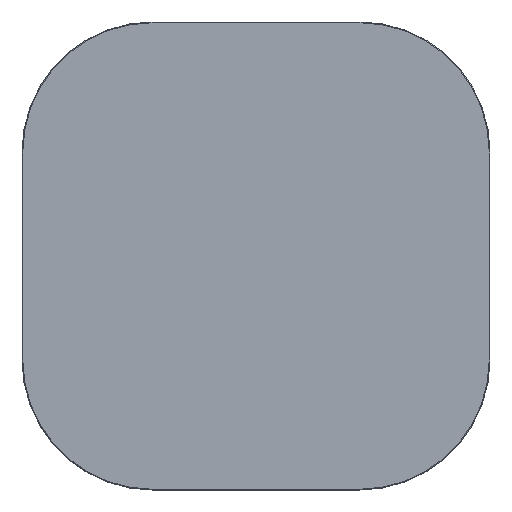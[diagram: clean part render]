
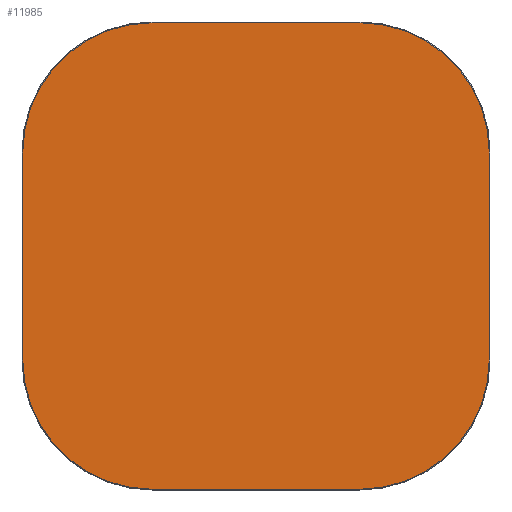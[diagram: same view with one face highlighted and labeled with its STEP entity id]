
A CAD part, top view. The second image highlights one B-rep face of the part: STEP entity #11985.
In plain terms, the highlighted planar face has unit normal (0, 0, 1).
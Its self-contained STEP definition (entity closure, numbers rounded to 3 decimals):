
#11910=CARTESIAN_POINT('',(0.,0.,20.));
#11911=DIRECTION('',(1.,0.,0.));
#11912=DIRECTION('',(0.,0.,1.));
#11913=AXIS2_PLACEMENT_3D('',#11910,#11912,#11911);
#11914=PLANE('',#11913);
#11915=CARTESIAN_POINT('',(-200.,-448.5,20.));
#11916=VERTEX_POINT('',#11915);
#11917=CARTESIAN_POINT('',(200.,-448.5,20.));
#11918=VERTEX_POINT('',#11917);
#11919=CARTESIAN_POINT('',(-200.,-448.5,20.));
#11920=DIRECTION('',(1.,0.,0.));
#11921=VECTOR('',#11920,400.);
#11922=LINE('',#11919,#11921);
#11923=EDGE_CURVE('',#11916,#11918,#11922,.T.);
#11924=ORIENTED_EDGE('E105',*,*,#11923,.T.);
#11925=CARTESIAN_POINT('',(448.5,-200.,20.));
#11926=VERTEX_POINT('',#11925);
#11927=CARTESIAN_POINT('',(200.,-200.,20.));
#11928=DIRECTION('',(0.,-1.,0.));
#11929=DIRECTION('',(0.,0.,1.));
#11930=AXIS2_PLACEMENT_3D('',#11927,#11929,#11928);
#11931=CIRCLE('',#11930,248.5);
#11932=EDGE_CURVE('',#11918,#11926,#11931,.T.);
#11933=ORIENTED_EDGE('E107',*,*,#11932,.T.);
#11934=CARTESIAN_POINT('',(448.5,200.,20.));
#11935=VERTEX_POINT('',#11934);
#11936=CARTESIAN_POINT('',(448.5,-200.,20.));
#11937=DIRECTION('',(0.,1.,0.));
#11938=VECTOR('',#11937,400.);
#11939=LINE('',#11936,#11938);
#11940=EDGE_CURVE('',#11926,#11935,#11939,.T.);
#11941=ORIENTED_EDGE('E109',*,*,#11940,.T.);
#11942=CARTESIAN_POINT('',(200.,448.5,20.));
#11943=VERTEX_POINT('',#11942);
#11944=CARTESIAN_POINT('',(200.,200.,20.));
#11945=DIRECTION('',(1.,0.,0.));
#11946=DIRECTION('',(0.,0.,1.));
#11947=AXIS2_PLACEMENT_3D('',#11944,#11946,#11945);
#11948=CIRCLE('',#11947,248.5);
#11949=EDGE_CURVE('',#11935,#11943,#11948,.T.);
#11950=ORIENTED_EDGE('E111',*,*,#11949,.T.);
#11951=CARTESIAN_POINT('',(-200.,448.5,20.));
#11952=VERTEX_POINT('',#11951);
#11953=CARTESIAN_POINT('',(200.,448.5,20.));
#11954=DIRECTION('',(-1.,0.,0.));
#11955=VECTOR('',#11954,400.);
#11956=LINE('',#11953,#11955);
#11957=EDGE_CURVE('',#11943,#11952,#11956,.T.);
#11958=ORIENTED_EDGE('E113',*,*,#11957,.T.);
#11959=CARTESIAN_POINT('',(-448.5,200.,20.));
#11960=VERTEX_POINT('',#11959);
#11961=CARTESIAN_POINT('',(-200.,200.,20.));
#11962=DIRECTION('',(0.,1.,0.));
#11963=DIRECTION('',(0.,0.,1.));
#11964=AXIS2_PLACEMENT_3D('',#11961,#11963,#11962);
#11965=CIRCLE('',#11964,248.5);
#11966=EDGE_CURVE('',#11952,#11960,#11965,.T.);
#11967=ORIENTED_EDGE('E115',*,*,#11966,.T.);
#11968=CARTESIAN_POINT('',(-448.5,-200.,20.));
#11969=VERTEX_POINT('',#11968);
#11970=CARTESIAN_POINT('',(-448.5,200.,20.));
#11971=DIRECTION('',(0.,-1.,0.));
#11972=VECTOR('',#11971,400.);
#11973=LINE('',#11970,#11972);
#11974=EDGE_CURVE('',#11960,#11969,#11973,.T.);
#11975=ORIENTED_EDGE('E117',*,*,#11974,.T.);
#11976=CARTESIAN_POINT('',(-200.,-200.,20.));
#11977=DIRECTION('',(-1.,0.,0.));
#11978=DIRECTION('',(-0.,0.,1.));
#11979=AXIS2_PLACEMENT_3D('',#11976,#11978,#11977);
#11980=CIRCLE('',#11979,248.5);
#11981=EDGE_CURVE('',#11969,#11916,#11980,.T.);
#11982=ORIENTED_EDGE('E119',*,*,#11981,.T.);
#11983=EDGE_LOOP('',(#11924,#11933,#11941,#11950,#11958,#11967,#11975,#11982));
#11984=FACE_OUTER_BOUND('',#11983,.T.);
#11985=ADVANCED_FACE('F2',(#11984),#11914,.T.);
